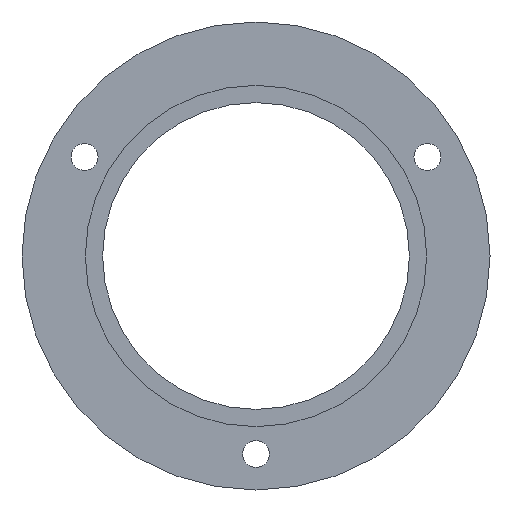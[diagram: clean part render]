
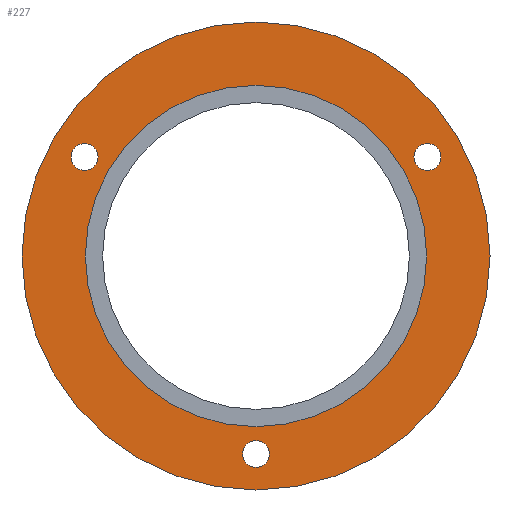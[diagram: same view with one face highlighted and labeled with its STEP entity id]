
A CAD part, front view. The second image highlights one B-rep face of the part: STEP entity #227.
In plain terms, the highlighted planar face has unit normal (0, -1, 0).
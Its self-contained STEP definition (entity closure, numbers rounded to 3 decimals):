
#20=PLANE('',#266);
#37=FACE_BOUND('',#93,.T.);
#38=FACE_BOUND('',#94,.T.);
#39=FACE_BOUND('',#95,.T.);
#40=FACE_BOUND('',#96,.T.);
#60=FACE_OUTER_BOUND('',#92,.T.);
#92=EDGE_LOOP('',(#192));
#93=EDGE_LOOP('',(#193));
#94=EDGE_LOOP('',(#194));
#95=EDGE_LOOP('',(#195));
#96=EDGE_LOOP('',(#196));
#108=CIRCLE('',#242,1.5);
#112=CIRCLE('',#249,1.5);
#116=CIRCLE('',#256,1.5);
#118=CIRCLE('',#259,18.96);
#121=CIRCLE('',#265,26.);
#128=VERTEX_POINT('',#362);
#132=VERTEX_POINT('',#373);
#136=VERTEX_POINT('',#384);
#138=VERTEX_POINT('',#389);
#141=VERTEX_POINT('',#398);
#148=EDGE_CURVE('',#128,#128,#108,.T.);
#152=EDGE_CURVE('',#132,#132,#112,.T.);
#156=EDGE_CURVE('',#136,#136,#116,.T.);
#158=EDGE_CURVE('',#138,#138,#118,.T.);
#161=EDGE_CURVE('',#141,#141,#121,.T.);
#192=ORIENTED_EDGE('',*,*,#161,.T.);
#193=ORIENTED_EDGE('',*,*,#148,.T.);
#194=ORIENTED_EDGE('',*,*,#152,.T.);
#195=ORIENTED_EDGE('',*,*,#156,.T.);
#196=ORIENTED_EDGE('',*,*,#158,.T.);
#227=ADVANCED_FACE('',(#60,#37,#38,#39,#40),#20,.F.);
#242=AXIS2_PLACEMENT_3D('',#363,#292,#293);
#249=AXIS2_PLACEMENT_3D('',#374,#306,#307);
#256=AXIS2_PLACEMENT_3D('',#385,#320,#321);
#259=AXIS2_PLACEMENT_3D('',#390,#326,#327);
#265=AXIS2_PLACEMENT_3D('',#399,#338,#339);
#266=AXIS2_PLACEMENT_3D('',#400,#340,#341);
#292=DIRECTION('center_axis',(0.,1.,0.));
#293=DIRECTION('ref_axis',(1.,0.,0.));
#306=DIRECTION('center_axis',(0.,1.,0.));
#307=DIRECTION('ref_axis',(1.,0.,0.));
#320=DIRECTION('center_axis',(0.,1.,0.));
#321=DIRECTION('ref_axis',(1.,0.,0.));
#326=DIRECTION('center_axis',(0.,1.,0.));
#327=DIRECTION('ref_axis',(-1.,0.,0.));
#338=DIRECTION('center_axis',(0.,-1.,0.));
#339=DIRECTION('ref_axis',(1.,0.,0.));
#340=DIRECTION('center_axis',(0.,1.,0.));
#341=DIRECTION('ref_axis',(0.,0.,1.));
#362=CARTESIAN_POINT('',(-20.553,0.,11.));
#363=CARTESIAN_POINT('Origin',(-19.053,0.,11.));
#373=CARTESIAN_POINT('',(-1.5,0.,-22.));
#374=CARTESIAN_POINT('Origin',(0.,0.,-22.));
#384=CARTESIAN_POINT('',(17.553,0.,11.));
#385=CARTESIAN_POINT('Origin',(19.053,0.,11.));
#389=CARTESIAN_POINT('',(18.96,0.,0.));
#390=CARTESIAN_POINT('Origin',(0.,0.,0.));
#398=CARTESIAN_POINT('',(-26.,0.,0.));
#399=CARTESIAN_POINT('Origin',(0.,0.,0.));
#400=CARTESIAN_POINT('Origin',(0.,0.,0.));
